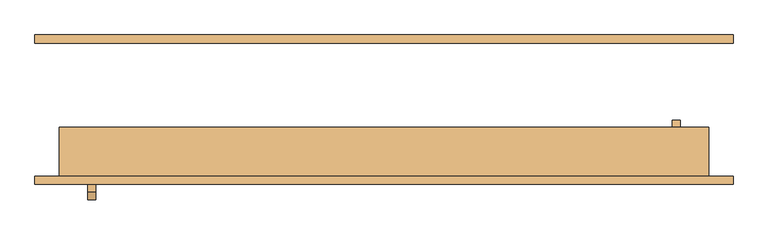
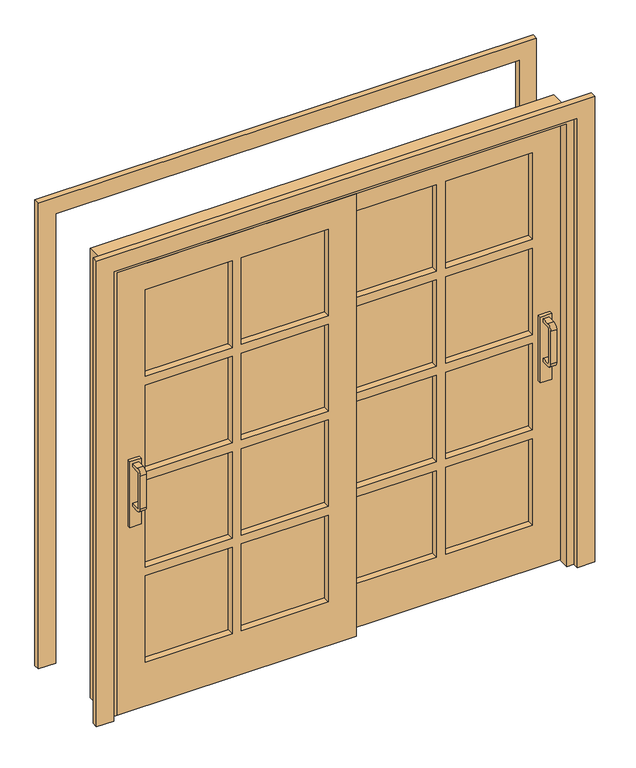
"""IFC4 building model written with IfcOpenShell, lengths in millimetres: door geometry, Puerta Balcón - 2 hojas corredizas : 200 x 205 cm - 8 Vidrios repartidos."""

from ifc_helpers import new_model, si_unit, point, frame, frame_2d, origin, place, context, project, spatial, polyline, circle_curve, trimmed, segment, composite_curve, outline, extrude, faceted_brep, source, transform, mapped, element, save


def door_a9439ebe(model_context):
    return source(origin(), model_context, "Body", "SolidModel", [
        extrude(outline(composite_curve([segment(polyline([(-170.0, 957.5), (-170.0, 942.5), (-205.0, 942.5)]), True, "CONTINUOUS"), segment(trimmed(circle_curve(frame_2d((-205.0, 965.0)), 22.5), [point((-205.0, 942.5))], [point((-227.5, 965.0))], False, "CARTESIAN"), True, "CONTINUOUS"), segment(polyline([(-227.5, 965.0), (-227.5, 1115.0)]), True, "CONTINUOUS"), segment(trimmed(circle_curve(frame_2d((-205.0, 1115.0)), 22.5), [point((-227.5, 1115.0))], [point((-205.0, 1137.5))], False, "CARTESIAN"), True, "CONTINUOUS"), segment(polyline([(-205.0, 1137.5), (-170.0, 1137.5), (-170.0, 1122.5), (-205.0, 1122.5)]), True, "CONTINUOUS"), segment(trimmed(circle_curve(frame_2d((-205.0, 1115.0)), 7.5), [point((-205.0, 1122.5))], [point((-212.5, 1115.0))], True, "CARTESIAN"), True, "CONTINUOUS"), segment(polyline([(-212.5, 1115.0), (-212.5, 965.0)]), True, "CONTINUOUS"), segment(trimmed(circle_curve(frame_2d((-205.0, 965.0)), 7.5), [point((-212.5, 965.0))], [point((-205.0, 957.5))], True, "CARTESIAN"), True, "CONTINUOUS"), segment(polyline([(-205.0, 957.5), (-170.0, 957.5)]), True, "CONTINUOUS")], self_intersect=False)), frame((887.5, 0.0, 0.0), z_axis=(1.0, 0.0, 0.0), x_axis=(0.0, 1.0, 0.0)), (0.0, 0.0, 1.0), 25.0),
        extrude(outline(polyline([(925.0, -170.0), (875.0, -170.0), (875.0, -155.0), (925.0, -155.0), (925.0, -170.0)])), frame((0.0, 0.0, 850.0), z_axis=(0.0, 0.0, 1.0), x_axis=(1.0, 0.0, 0.0)), (0.0, 0.0, 1.0), 300.0),
        extrude(outline(composite_curve([segment(polyline([(-220.0, 957.5), (-220.0, 942.5), (-255.0, 942.5)]), True, "CONTINUOUS"), segment(trimmed(circle_curve(frame_2d((-255.0, 965.0)), 22.5), [point((-255.0, 942.5))], [point((-277.5, 965.0))], False, "CARTESIAN"), True, "CONTINUOUS"), segment(polyline([(-277.5, 965.0), (-277.5, 1115.0)]), True, "CONTINUOUS"), segment(trimmed(circle_curve(frame_2d((-255.0, 1115.0)), 22.5), [point((-277.5, 1115.0))], [point((-255.0, 1137.5))], False, "CARTESIAN"), True, "CONTINUOUS"), segment(polyline([(-255.0, 1137.5), (-220.0, 1137.5), (-220.0, 1122.5), (-255.0, 1122.5)]), True, "CONTINUOUS"), segment(trimmed(circle_curve(frame_2d((-255.0, 1115.0)), 7.5), [point((-255.0, 1122.5))], [point((-262.5, 1115.0))], True, "CARTESIAN"), True, "CONTINUOUS"), segment(polyline([(-262.5, 1115.0), (-262.5, 965.0)]), True, "CONTINUOUS"), segment(trimmed(circle_curve(frame_2d((-255.0, 965.0)), 7.5), [point((-262.5, 965.0))], [point((-255.0, 957.5))], True, "CARTESIAN"), True, "CONTINUOUS"), segment(polyline([(-255.0, 957.5), (-220.0, 957.5)]), True, "CONTINUOUS")], self_intersect=False)), frame((-912.5, 0.0, 0.0), z_axis=(1.0, 0.0, 0.0), x_axis=(0.0, 1.0, 0.0)), (0.0, 0.0, 1.0), 25.0),
        extrude(outline(polyline([(-875.0, -220.0), (-925.0, -220.0), (-925.0, -205.0), (-875.0, -205.0), (-875.0, -220.0)])), frame((0.0, 0.0, 850.0), z_axis=(0.0, 0.0, 1.0), x_axis=(1.0, 0.0, 0.0)), (0.0, 0.0, 1.0), 300.0),
        extrude(outline(composite_curve([segment(polyline([(-140.0, 957.5), (-105.0, 957.5)]), True, "CONTINUOUS"), segment(trimmed(circle_curve(frame_2d((-105.0, 965.0)), 7.5), [point((-105.0, 957.5))], [point((-97.5, 965.0))], True, "CARTESIAN"), True, "CONTINUOUS"), segment(polyline([(-97.5, 965.0), (-97.5, 1115.0)]), True, "CONTINUOUS"), segment(trimmed(circle_curve(frame_2d((-105.0, 1115.0)), 7.5), [point((-97.5, 1115.0))], [point((-105.0, 1122.5))], True, "CARTESIAN"), True, "CONTINUOUS"), segment(polyline([(-105.0, 1122.5), (-140.0, 1122.5), (-140.0, 1137.5), (-105.0, 1137.5)]), True, "CONTINUOUS"), segment(trimmed(circle_curve(frame_2d((-105.0, 1115.0)), 22.5), [point((-105.0, 1137.5))], [point((-82.5, 1115.0))], False, "CARTESIAN"), True, "CONTINUOUS"), segment(polyline([(-82.5, 1115.0), (-82.5, 965.0)]), True, "CONTINUOUS"), segment(trimmed(circle_curve(frame_2d((-105.0, 965.0)), 22.5), [point((-82.5, 965.0))], [point((-105.0, 942.5))], False, "CARTESIAN"), True, "CONTINUOUS"), segment(polyline([(-105.0, 942.5), (-140.0, 942.5), (-140.0, 957.5)]), True, "CONTINUOUS")], self_intersect=False)), frame((-912.5, 0.0, 0.0), z_axis=(1.0, 0.0, 0.0), x_axis=(0.0, 1.0, 0.0)), (0.0, 0.0, 1.0), 25.0),
        extrude(outline(polyline([(-875.0, -140.0), (-875.0, -155.0), (-925.0, -155.0), (-925.0, -140.0), (-875.0, -140.0)])), frame((0.0, 0.0, 850.0), z_axis=(0.0, 0.0, 1.0), x_axis=(1.0, 0.0, 0.0)), (0.0, 0.0, 1.0), 300.0),
        extrude(outline(composite_curve([segment(polyline([(-90.0, 957.5), (-55.0, 957.5)]), True, "CONTINUOUS"), segment(trimmed(circle_curve(frame_2d((-55.0, 965.0)), 7.5), [point((-55.0, 957.5))], [point((-47.5, 965.0))], True, "CARTESIAN"), True, "CONTINUOUS"), segment(polyline([(-47.5, 965.0), (-47.5, 1115.0)]), True, "CONTINUOUS"), segment(trimmed(circle_curve(frame_2d((-55.0, 1115.0)), 7.5), [point((-47.5, 1115.0))], [point((-55.0, 1122.5))], True, "CARTESIAN"), True, "CONTINUOUS"), segment(polyline([(-55.0, 1122.5), (-90.0, 1122.5), (-90.0, 1137.5), (-55.0, 1137.5)]), True, "CONTINUOUS"), segment(trimmed(circle_curve(frame_2d((-55.0, 1115.0)), 22.5), [point((-55.0, 1137.5))], [point((-32.5, 1115.0))], False, "CARTESIAN"), True, "CONTINUOUS"), segment(polyline([(-32.5, 1115.0), (-32.5, 965.0)]), True, "CONTINUOUS"), segment(trimmed(circle_curve(frame_2d((-55.0, 965.0)), 22.5), [point((-32.5, 965.0))], [point((-55.0, 942.5))], False, "CARTESIAN"), True, "CONTINUOUS"), segment(polyline([(-55.0, 942.5), (-90.0, 942.5), (-90.0, 957.5)]), True, "CONTINUOUS")], self_intersect=False)), frame((887.5, 0.0, 0.0), z_axis=(1.0, 0.0, 0.0), x_axis=(0.0, 1.0, 0.0)), (0.0, 0.0, 1.0), 25.0),
        extrude(outline(polyline([(925.0, -90.0), (925.0, -105.0), (875.0, -105.0), (875.0, -90.0), (925.0, -90.0)])), frame((0.0, 0.0, 850.0), z_axis=(0.0, 0.0, 1.0), x_axis=(1.0, 0.0, 0.0)), (0.0, 0.0, 1.0), 300.0),
        extrude(outline(polyline([(435.0, -125.0), (60.0, -125.0), (60.0, -120.0), (435.0, -120.0), (435.0, -125.0)])), frame((0.0, 0.0, 1505.0), z_axis=(0.0, 0.0, 1.0), x_axis=(1.0, 0.0, 0.0)), (0.0, 0.0, 1.0), 395.0),
        extrude(outline(polyline([(850.0, -125.0), (475.0, -125.0), (475.0, -120.0), (850.0, -120.0), (850.0, -125.0)])), frame((0.0, 0.0, 1505.0), z_axis=(0.0, 0.0, 1.0), x_axis=(1.0, 0.0, 0.0)), (0.0, 0.0, 1.0), 395.0),
        extrude(outline(polyline([(435.0, -125.0), (60.0, -125.0), (60.0, -120.0), (435.0, -120.0), (435.0, -125.0)])), frame((0.0, 0.0, 1070.0), z_axis=(0.0, 0.0, 1.0), x_axis=(1.0, 0.0, 0.0)), (0.0, 0.0, 1.0), 395.0),
        extrude(outline(polyline([(850.0, -125.0), (475.0, -125.0), (475.0, -120.0), (850.0, -120.0), (850.0, -125.0)])), frame((0.0, 0.0, 1070.0), z_axis=(0.0, 0.0, 1.0), x_axis=(1.0, 0.0, 0.0)), (0.0, 0.0, 1.0), 395.0),
        extrude(outline(polyline([(435.0, -125.0), (60.0, -125.0), (60.0, -120.0), (435.0, -120.0), (435.0, -125.0)])), frame((0.0, 0.0, 635.0), z_axis=(0.0, 0.0, 1.0), x_axis=(1.0, 0.0, 0.0)), (0.0, 0.0, 1.0), 395.0),
        extrude(outline(polyline([(850.0, -125.0), (475.0, -125.0), (475.0, -120.0), (850.0, -120.0), (850.0, -125.0)])), frame((0.0, 0.0, 635.0), z_axis=(0.0, 0.0, 1.0), x_axis=(1.0, 0.0, 0.0)), (0.0, 0.0, 1.0), 395.0),
        extrude(outline(polyline([(435.0, -125.0), (60.0, -125.0), (60.0, -120.0), (435.0, -120.0), (435.0, -125.0)])), frame((0.0, 0.0, 200.0), z_axis=(0.0, 0.0, 1.0), x_axis=(1.0, 0.0, 0.0)), (0.0, 0.0, 1.0), 395.0),
        extrude(outline(polyline([(850.0, -125.0), (475.0, -125.0), (475.0, -120.0), (850.0, -120.0), (850.0, -125.0)])), frame((0.0, 0.0, 200.0), z_axis=(0.0, 0.0, 1.0), x_axis=(1.0, 0.0, 0.0)), (0.0, 0.0, 1.0), 395.0),
        extrude(outline(polyline([(0.0, -60.0), (0.0, 970.0), (2020.0, 970.0), (2020.0, -60.0), (0.0, -60.0)]), holes=[polyline([(1505.0, 60.0), (1900.0, 60.0), (1900.0, 435.0), (1505.0, 435.0), (1505.0, 60.0)]), polyline([(1900.0, 475.0), (1900.0, 850.0), (1505.0, 850.0), (1505.0, 475.0), (1900.0, 475.0)]), polyline([(595.0, 850.0), (200.0, 850.0), (200.0, 475.0), (595.0, 475.0), (595.0, 850.0)]), polyline([(200.0, 435.0), (200.0, 60.0), (595.0, 60.0), (595.0, 435.0), (200.0, 435.0)]), polyline([(635.0, 435.0), (635.0, 60.0), (1030.0, 60.0), (1030.0, 435.0), (635.0, 435.0)]), polyline([(1030.0, 850.0), (635.0, 850.0), (635.0, 475.0), (1030.0, 475.0), (1030.0, 850.0)]), polyline([(1465.0, 475.0), (1465.0, 850.0), (1070.0, 850.0), (1070.0, 475.0), (1465.0, 475.0)]), polyline([(1070.0, 60.0), (1465.0, 60.0), (1465.0, 435.0), (1070.0, 435.0), (1070.0, 60.0)])]), frame((0.0, -155.0, 0.0), z_axis=(0.0, 1.0, 0.0), x_axis=(0.0, 0.0, 1.0)), (0.0, 0.0, 1.0), 50.0),
        extrude(outline(polyline([(-475.0, -175.0), (-850.0, -175.0), (-850.0, -170.0), (-475.0, -170.0), (-475.0, -175.0)])), frame((0.0, 0.0, 1505.0), z_axis=(0.0, 0.0, 1.0), x_axis=(1.0, 0.0, 0.0)), (0.0, 0.0, 1.0), 395.0),
        extrude(outline(polyline([(-60.0, -175.0), (-435.0, -175.0), (-435.0, -170.0), (-60.0, -170.0), (-60.0, -175.0)])), frame((0.0, 0.0, 1505.0), z_axis=(0.0, 0.0, 1.0), x_axis=(1.0, 0.0, 0.0)), (0.0, 0.0, 1.0), 395.0),
        extrude(outline(polyline([(-475.0, -175.0), (-850.0, -175.0), (-850.0, -170.0), (-475.0, -170.0), (-475.0, -175.0)])), frame((0.0, 0.0, 1070.0), z_axis=(0.0, 0.0, 1.0), x_axis=(1.0, 0.0, 0.0)), (0.0, 0.0, 1.0), 395.0),
        extrude(outline(polyline([(-60.0, -175.0), (-435.0, -175.0), (-435.0, -170.0), (-60.0, -170.0), (-60.0, -175.0)])), frame((0.0, 0.0, 1070.0), z_axis=(0.0, 0.0, 1.0), x_axis=(1.0, 0.0, 0.0)), (0.0, 0.0, 1.0), 395.0),
        extrude(outline(polyline([(-475.0, -175.0), (-850.0, -175.0), (-850.0, -170.0), (-475.0, -170.0), (-475.0, -175.0)])), frame((0.0, 0.0, 635.0), z_axis=(0.0, 0.0, 1.0), x_axis=(1.0, 0.0, 0.0)), (0.0, 0.0, 1.0), 395.0),
        extrude(outline(polyline([(-60.0, -175.0), (-435.0, -175.0), (-435.0, -170.0), (-60.0, -170.0), (-60.0, -175.0)])), frame((0.0, 0.0, 635.0), z_axis=(0.0, 0.0, 1.0), x_axis=(1.0, 0.0, 0.0)), (0.0, 0.0, 1.0), 395.0),
        extrude(outline(polyline([(-475.0, -175.0), (-850.0, -175.0), (-850.0, -170.0), (-475.0, -170.0), (-475.0, -175.0)])), frame((0.0, 0.0, 200.0), z_axis=(0.0, 0.0, 1.0), x_axis=(1.0, 0.0, 0.0)), (0.0, 0.0, 1.0), 395.0),
        extrude(outline(polyline([(-60.0, -175.0), (-435.0, -175.0), (-435.0, -170.0), (-60.0, -170.0), (-60.0, -175.0)])), frame((0.0, 0.0, 200.0), z_axis=(0.0, 0.0, 1.0), x_axis=(1.0, 0.0, 0.0)), (0.0, 0.0, 1.0), 395.0),
        extrude(outline(polyline([(0.0, -970.0), (0.0, 60.0), (2020.0, 60.0), (2020.0, -970.0), (0.0, -970.0)]), holes=[polyline([(1505.0, -850.0), (1900.0, -850.0), (1900.0, -475.0), (1505.0, -475.0), (1505.0, -850.0)]), polyline([(1900.0, -435.0), (1900.0, -60.0), (1505.0, -60.0), (1505.0, -435.0), (1900.0, -435.0)]), polyline([(595.0, -60.0), (200.0, -60.0), (200.0, -435.0), (595.0, -435.0), (595.0, -60.0)]), polyline([(200.0, -475.0), (200.0, -850.0), (595.0, -850.0), (595.0, -475.0), (200.0, -475.0)]), polyline([(635.0, -475.0), (635.0, -850.0), (1030.0, -850.0), (1030.0, -475.0), (635.0, -475.0)]), polyline([(1030.0, -60.0), (635.0, -60.0), (635.0, -435.0), (1030.0, -435.0), (1030.0, -60.0)]), polyline([(1465.0, -435.0), (1465.0, -60.0), (1070.0, -60.0), (1070.0, -435.0), (1465.0, -435.0)]), polyline([(1070.0, -850.0), (1465.0, -850.0), (1465.0, -475.0), (1070.0, -475.0), (1070.0, -850.0)])]), frame((0.0, -205.0, 0.0), z_axis=(0.0, 1.0, 0.0), x_axis=(0.0, 0.0, 1.0)), (0.0, 0.0, 1.0), 50.0),
        faceted_brep([(-1000.0, -55.0, 0.0), (-950.0, -55.0, 0.0), (-950.0, -105.0, 0.0), (-970.0, -105.0, 0.0), (-970.0, -205.0, 0.0), (-1000.0, -205.0, 0.0), (-1000.0, -55.0, 2050.0), (1000.0, -55.0, 2050.0), (1000.0, -55.0, 0.0), (950.0, -55.0, 0.0), (950.0, -55.0, 2000.0), (-950.0, -55.0, 2000.0), (-950.0, -105.0, 2000.0), (950.0, -105.0, 2000.0), (950.0, -105.0, 0.0), (970.0, -105.0, 0.0), (970.0, -105.0, 2020.0), (-970.0, -105.0, 2020.0), (-970.0, -205.0, 2020.0), (970.0, -205.0, 2020.0), (970.0, -205.0, 0.0), (1000.0, -205.0, 0.0), (1000.0, -205.0, 2050.0), (-1000.0, -205.0, 2050.0)], [[[0, 1, 2, 3, 4, 5]], [[1, 0, 6, 7, 8, 9, 10, 11]], [[2, 1, 11, 12]], [[3, 2, 12, 13, 14, 15, 16, 17]], [[4, 3, 17, 18]], [[5, 4, 18, 19, 20, 21, 22, 23]], [[0, 5, 23, 6]], [[12, 11, 10, 13]], [[18, 17, 16, 19]], [[6, 23, 22, 7]], [[8, 21, 20, 15, 14, 9]], [[13, 10, 9, 14]], [[19, 16, 15, 20]], [[7, 22, 21, 8]]]),
        extrude(outline(polyline([(2050.0, -1000.0), (2050.0, 1000.0), (0.0, 1000.0), (0.0, 1075.0), (2125.0, 1075.0), (2125.0, -1075.0), (0.0, -1075.0), (0.0, -1000.0), (2050.0, -1000.0)])), frame((0.0, 205.0, 0.0), z_axis=(0.0, 1.0, 0.0), x_axis=(0.0, 0.0, 1.0)), (0.0, 0.0, 1.0), 25.0),
        extrude(outline(polyline([(2125.0, -1075.0), (0.0, -1075.0), (0.0, -1000.0), (2050.0, -1000.0), (2050.0, 1000.0), (0.0, 1000.0), (0.0, 1075.0), (2125.0, 1075.0), (2125.0, -1075.0)])), frame((0.0, -230.0, 0.0), z_axis=(0.0, 1.0, 0.0), x_axis=(0.0, 0.0, 1.0)), (0.0, 0.0, 1.0), 25.0),
    ])


if __name__ == "__main__":
    model = new_model("IFC4")
    model_context = context("Model", 3, world=origin())
    ifc_project = project(units=[si_unit("LENGTHUNIT", "METRE", prefix="MILLI")], contexts=[model_context])
    site = spatial("IfcSite", under=ifc_project)
    building = spatial("IfcBuilding", under=site)
    placement = place(None, origin())
    door_shape = door_a9439ebe(model_context)
    element("IfcDoor", 1, ObjectType="Puerta Balcón - 2 hojas corredizas : 200 x 205 cm - 8 Vidrios repartidos", at=placement, inside=building, context=model_context, shape_type="MappedRepresentation", body=[
        mapped(door_shape, transform((0.0, 0.0, 0.0), x_axis=(1.0, 0.0, 0.0), y_axis=(0.0, 1.0, 0.0), z_axis=(0.0, 0.0, 1.0))),
    ])
    save(model, "model.ifc")
